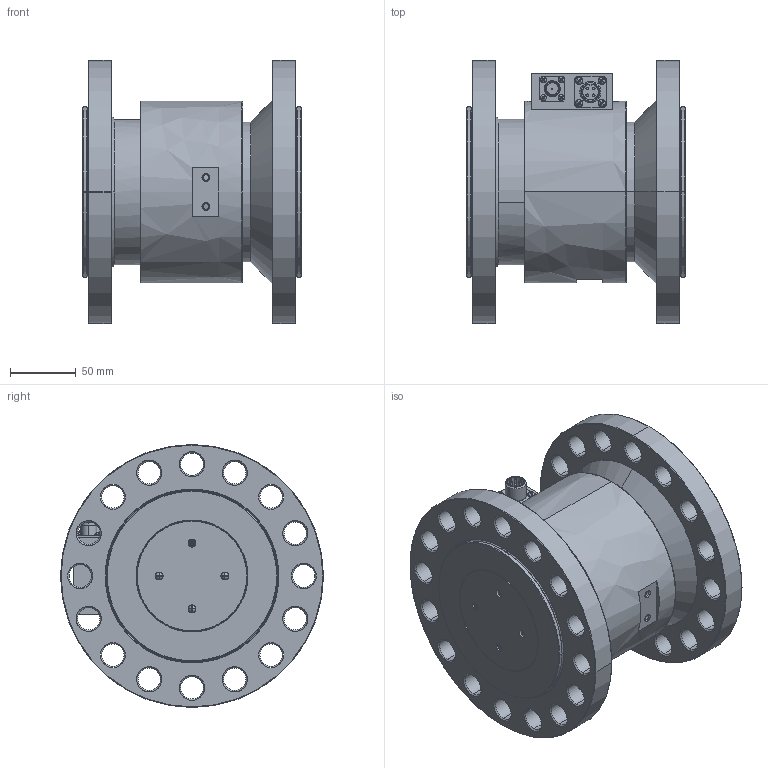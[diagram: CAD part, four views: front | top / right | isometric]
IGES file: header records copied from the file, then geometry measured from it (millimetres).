
Start section: SolidWorks IGES file using analytic representation for surfaces
Global section: file name: D:\ERMAK\WORK\M20C\M20C-10K\3D\M20C-10K.IGS; native system: SolidWorks 2019; preprocessor: SolidWorks 2019; author: Admin; date: 210212.130821; units: millimetre
Bounding box: 166 x 200 x 200 mm (x, y, z)
Surface area: 247356.8 mm2 (no closed solid volume)
Topology: 0 solids, 0 shells, 933 faces, 17130 edges, 17120 vertices
Faces by surface type: revolution 672, bspline 261
